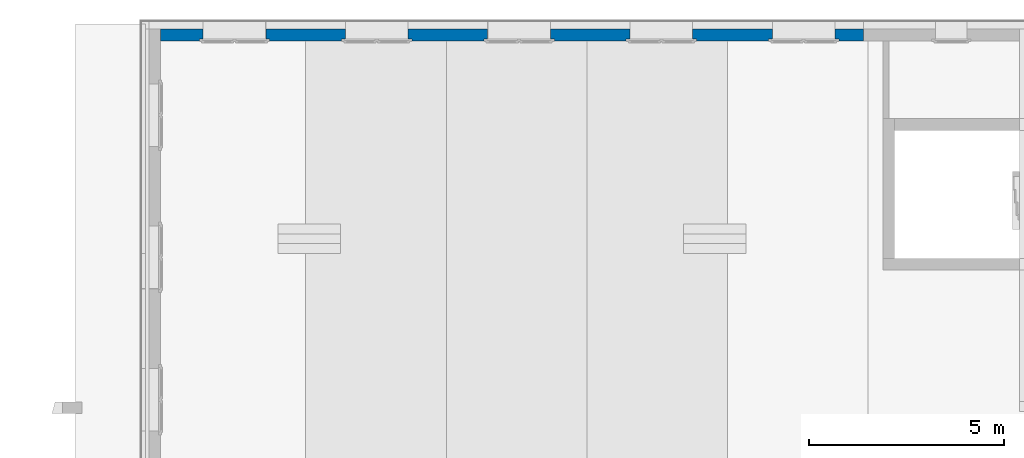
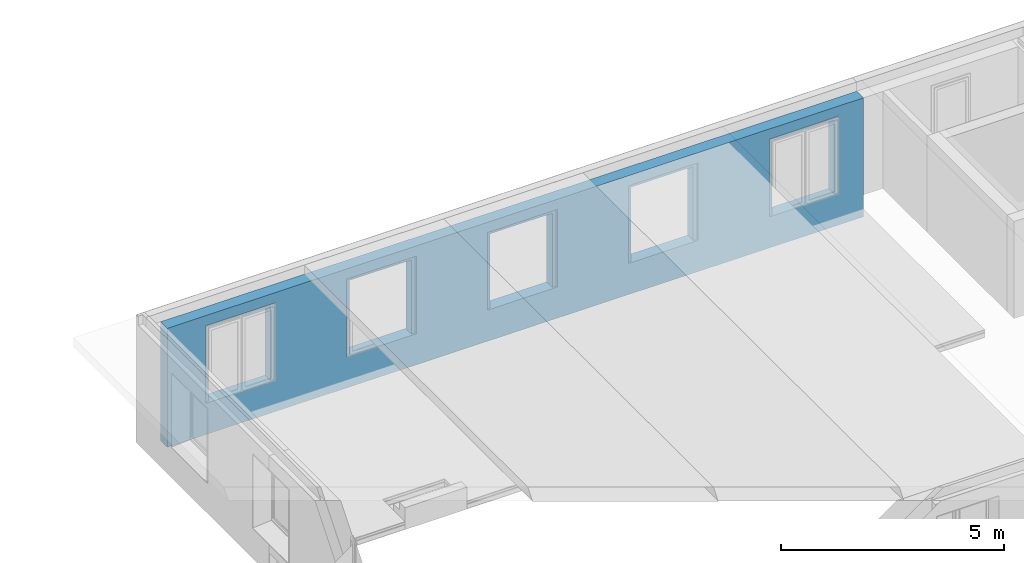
# One storey, part 6 of 20: 1 wall, 5 openings.
"""IFC4 building model written with IfcOpenShell, lengths in millimetres."""

from ifc_helpers import new_model, entity, si_unit, converted_unit, derived_unit, direction, frame, origin_with_axes, place, context, subcontext, project, spatial, polygons, material, constituent, constituent_set, type_object, element, save


model = new_model("IFC4")

# Units and contexts
model_context = context("Model", 3, precision=0.01, world=origin_with_axes(), true_north=direction((0.0, 1.0)))
body_context = subcontext(model_context, "Body", "Model", "MODEL_VIEW")
ifc_project = project(units=[si_unit("LENGTHUNIT", "METRE", prefix="MILLI"), si_unit("AREAUNIT", "SQUARE_METRE"), si_unit("VOLUMEUNIT", "CUBIC_METRE"), converted_unit("PLANEANGLEUNIT", "DEGREE", entity("IfcPlaneAngleMeasure", 0.0174532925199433), si_unit("PLANEANGLEUNIT", "RADIAN"), dimensions=[0, 0, 0, 0, 0, 0, 0]), converted_unit("TIMEUNIT", "Year", entity("IfcTimeMeasure", 31557600.0), si_unit("TIMEUNIT", "SECOND"), dimensions=[0, 0, 1, 0, 0, 0, 0]), si_unit("MASSUNIT", "GRAM", prefix="KILO"), si_unit("THERMODYNAMICTEMPERATUREUNIT", "DEGREE_CELSIUS"), si_unit("LUMINOUSINTENSITYUNIT", "LUMEN"), si_unit("ENERGYUNIT", "JOULE", prefix="MEGA"), derived_unit("THERMALCONDUCTANCEUNIT", [(si_unit("POWERUNIT", "WATT"), 1), (si_unit("LENGTHUNIT", "METRE"), -1), (si_unit("THERMODYNAMICTEMPERATUREUNIT", "KELVIN"), -1)]), derived_unit("SPECIFICHEATCAPACITYUNIT", [(si_unit("ENERGYUNIT", "JOULE"), 1), (si_unit("MASSUNIT", "GRAM", prefix="KILO"), -1), (si_unit("THERMODYNAMICTEMPERATUREUNIT", "KELVIN"), -1)]), derived_unit("MASSDENSITYUNIT", [(si_unit("MASSUNIT", "GRAM", prefix="KILO"), 1), (si_unit("VOLUMEUNIT", "CUBIC_METRE"), -1)])], contexts=[model_context])

# Site, building, storey
site_placement = place(None, origin_with_axes())
site = spatial("IfcSite", under=ifc_project, at=site_placement, Name="Gelände", CompositionType="ELEMENT")
building_placement = place(site_placement, origin_with_axes())
building = spatial("IfcBuilding", under=site, at=building_placement, Name="Gebäude", CompositionType="ELEMENT")
storey_placement = place(building_placement, frame((0.0, 0.0, 5.198845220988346e-05), z_axis=(0.0, 0.0, 1.0), x_axis=(1.0, 0.0, 0.0)))
storey = spatial("IfcBuildingStorey", under=building, at=storey_placement, Name="EG", CompositionType="ELEMENT", Elevation=0.0)

# Wall, openings
ifc_material = material(Name="Beton bewehrt")
ifc_constituent = constituent(ifc_material, Name="Beton bewehrt")
ifc_constituent_set = constituent_set(constituents=[ifc_constituent], Name="Aussenwand Typ 05")
wall_type = type_object("IfcWallType", Name="Aussenwand Typ 05 300", PredefinedType="NOTDEFINED")
wall_placement = place(storey_placement, frame((-6861.004181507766, 37737.5972813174, -600.0000000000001), z_axis=(0.0, 0.0, 1.0), x_axis=(1.0, 0.0, 0.0)))
wall = element("IfcWall", 1, at=wall_placement, inside=storey, type_object=wall_type, material=ifc_constituent_set, Name="Wand-014", PredefinedType="NOTDEFINED", context=body_context, shape_type="Tessellation", body=[
    polygons([(17561.99999999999, -250.0, 849.999948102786), (17561.99999999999, -250.0, 2871.999948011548), (17561.99999999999, 0.0, 2871.999948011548), (17561.99999999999, 0.0, 849.999948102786), (15957.99999999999, -250.0, 2871.999948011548), (17662.0, -250.0, 849.999948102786), (17662.0, -250.0, 2971.999948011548), (15857.99999999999, -250.0, 2971.999948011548), (15857.99999999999, -250.0, 849.999948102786), (15957.99999999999, -250.0, 849.999948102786), (15957.99999999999, 0.0, 2871.999948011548), (18290.00280796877, 0.0, 0.0), (299.9999999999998, 0.0, 0.0), (299.9999999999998, 0.0, 3249.999948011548), (18290.00280796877, 0.0, 3249.999948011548), (2993.999999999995, 0.0, 849.999948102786), (2993.999999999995, 0.0, 2871.999948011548), (1389.999999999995, 0.0, 2871.999948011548), (1389.999999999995, 0.0, 849.999948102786), (5031.999999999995, 0.0, 2871.999948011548), (5031.999999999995, 0.0, 849.999948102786), (6635.999999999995, 0.0, 849.999948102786), (6635.999999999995, 0.0, 2871.999948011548), (10277.99999999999, 0.0, 849.999948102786), (10277.99999999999, 0.0, 2871.999948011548), (8673.999999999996, 0.0, 2871.999948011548), (8673.999999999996, 0.0, 849.999948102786), (12315.99999999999, 0.0, 2871.999948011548), (12315.99999999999, 0.0, 849.999948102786), (13920.0, 0.0, 849.999948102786), (13920.0, 0.0, 2871.999948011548), (15957.99999999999, 0.0, 849.999948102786), (15857.99999999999, -299.9999999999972, 849.999948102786), (17662.0, -299.9999999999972, 849.999948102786), (17662.0, -299.9999999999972, 2971.999948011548), (15857.99999999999, -299.9999999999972, 2971.999948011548), (18290.00280796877, -299.9999999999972, 0.0), (299.9999999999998, -299.9999999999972, 0.0), (299.9999999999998, -299.9999999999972, 3249.999948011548), (18290.00280796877, -299.9999999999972, 3249.999948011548), (2993.999999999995, -250.0, 849.999948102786), (2993.999999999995, -250.0, 2871.999948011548), (1389.999999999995, -250.0, 2871.999948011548), (1389.999999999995, -250.0, 849.999948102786), (1289.999999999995, -250.0, 849.999948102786), (1289.999999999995, -299.9999999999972, 849.999948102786), (3093.999999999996, -299.9999999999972, 849.999948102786), (3093.999999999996, -250.0, 849.999948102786), (5031.999999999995, -250.0, 2871.999948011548), (5031.999999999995, -250.0, 849.999948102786), (4931.999999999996, -250.0, 849.999948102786), (4931.999999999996, -299.9999999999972, 849.999948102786), (6735.999999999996, -299.9999999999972, 849.999948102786), (6735.999999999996, -250.0, 849.999948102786), (6635.999999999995, -250.0, 849.999948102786), (6635.999999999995, -250.0, 2871.999948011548), (10277.99999999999, -250.0, 849.999948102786), (10277.99999999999, -250.0, 2871.999948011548), (8673.999999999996, -250.0, 2871.999948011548), (8673.999999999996, -250.0, 849.999948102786), (10378.0, -250.0, 849.999948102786), (8573.999999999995, -250.0, 849.999948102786), (8573.999999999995, -299.9999999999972, 849.999948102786), (10378.0, -299.9999999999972, 849.999948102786), (12315.99999999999, -250.0, 2871.999948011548), (12315.99999999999, -250.0, 849.999948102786), (12216.0, -299.9999999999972, 849.999948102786), (14020.0, -299.9999999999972, 849.999948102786), (14020.0, -250.0, 849.999948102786), (13920.0, -250.0, 849.999948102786), (12216.0, -250.0, 849.999948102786), (13920.0, -250.0, 2871.999948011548), (1289.999999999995, -299.9999999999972, 2971.999948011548), (3093.999999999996, -299.9999999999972, 2971.999948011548), (6735.999999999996, -299.9999999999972, 2971.999948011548), (4931.999999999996, -299.9999999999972, 2971.999948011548), (8573.999999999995, -299.9999999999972, 2971.999948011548), (10378.0, -299.9999999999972, 2971.999948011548), (14020.0, -299.9999999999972, 2971.999948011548), (12216.0, -299.9999999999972, 2971.999948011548), (3093.999999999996, -250.0, 2971.999948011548), (1289.999999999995, -250.0, 2971.999948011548), (6735.999999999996, -250.0, 2971.999948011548), (4931.999999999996, -250.0, 2971.999948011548), (10378.0, -250.0, 2971.999948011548), (8573.999999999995, -250.0, 2971.999948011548), (14020.0, -250.0, 2971.999948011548), (12216.0, -250.0, 2971.999948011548)], [[[1, 2, 3, 4]], [[5, 2, 1, 6, 7, 8, 9, 10]], [[2, 5, 11, 3]], [[12, 13, 14, 15], [16, 17, 18, 19], [20, 21, 22, 23], [24, 25, 26, 27], [28, 29, 30, 31], [4, 3, 11, 32]], [[10, 9, 33, 34, 6, 1, 4, 32]], [[34, 35, 7, 6]], [[35, 36, 8, 7]], [[36, 33, 9, 8]], [[5, 10, 32, 11]], [[37, 38, 13, 12]], [[14, 13, 38, 39]], [[15, 14, 39, 40]], [[37, 12, 15, 40]], [[41, 42, 17, 16]], [[42, 43, 18, 17]], [[43, 44, 19, 18]], [[44, 45, 46, 47, 48, 41, 16, 19]], [[21, 20, 49, 50]], [[22, 21, 50, 51, 52, 53, 54, 55]], [[23, 22, 55, 56]], [[20, 23, 56, 49]], [[57, 58, 25, 24]], [[58, 59, 26, 25]], [[59, 60, 27, 26]], [[61, 57, 24, 27, 60, 62, 63, 64]], [[29, 28, 65, 66]], [[67, 68, 69, 70, 30, 29, 66, 71]], [[31, 30, 70, 72]], [[28, 31, 72, 65]], [[40, 39, 38, 37], [46, 73, 74, 47], [75, 53, 52, 76], [63, 77, 78, 64], [79, 68, 67, 80], [33, 36, 35, 34]], [[43, 42, 41, 48, 81, 82, 45, 44]], [[73, 46, 45, 82]], [[47, 74, 81, 48]], [[51, 50, 49, 56, 55, 54, 83, 84]], [[51, 84, 76, 52]], [[83, 54, 53, 75]], [[85, 86, 62, 60, 59, 58, 57, 61]], [[77, 63, 62, 86]], [[64, 78, 85, 61]], [[70, 69, 87, 88, 71, 66, 65, 72]], [[87, 69, 68, 79]], [[71, 88, 80, 67]], [[74, 73, 82, 81]], [[84, 83, 75, 76]], [[78, 77, 86, 85]], [[88, 87, 79, 80]]], closed=True),
])
opening_1_placement = place(wall_placement, frame((2191.999999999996, 0.0, 909.9999481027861), z_axis=(0.0, 0.0, 1.0), x_axis=(1.0, 0.0, 0.0)))
element("IfcOpeningElement", 2, at=opening_1_placement, cuts=wall, Name="Fenster-004", context=body_context, identifier="Reference", shape_type="Tessellation", body=[
    polygons([(800.0000000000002, 0.9999999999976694, 1959.999999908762), (800.0000000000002, 0.9999999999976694, 1961.999999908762), (802.0, 0.9999999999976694, 1961.999999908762), (802.0, 0.9999999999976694, -60.00000000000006), (-802.0000000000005, 0.9999999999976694, -60.00000000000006), (-802.0000000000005, 0.9999999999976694, 1961.999999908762), (-799.9999999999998, 0.9999999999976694, 1961.999999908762), (-799.9999999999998, 0.9999999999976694, 1959.999999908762), (800.0000000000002, 0.0, 1961.999999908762), (800.0000000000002, 149.9999999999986, 1959.999999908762), (800.0000000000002, 149.9999999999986, 2249.999999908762), (800.0000000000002, 0.0, 2249.999999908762), (-799.9999999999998, 0.0, 1961.999999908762), (-802.0000000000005, -250.0, 1961.999999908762), (802.0, -250.0, 1961.999999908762), (802.0, -250.0, -60.00000000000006), (-802.0000000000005, -250.0, -60.00000000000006), (902.0000000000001, -250.0, -60.00000000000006), (902.0000000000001, -300.9999999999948, -60.00000000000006), (-902.0000000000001, -300.9999999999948, -60.00000000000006), (-902.0000000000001, -250.0, -60.00000000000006), (-799.9999999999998, 0.0, 2249.999999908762), (-799.9999999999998, 149.9999999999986, 2249.999999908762), (-799.9999999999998, 149.9999999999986, 1959.999999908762), (-902.0000000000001, -250.0, 2061.999999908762), (902.0000000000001, -250.0, 2061.999999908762), (902.0000000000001, -300.9999999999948, 2061.999999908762), (-902.0000000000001, -300.9999999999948, 2061.999999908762)], [[[1, 2, 3, 4, 5, 6, 7, 8]], [[9, 2, 1, 10, 11, 12]], [[13, 7, 6, 14, 15, 3, 2, 9]], [[15, 16, 4, 3]], [[17, 5, 4, 16, 18, 19, 20, 21]], [[17, 14, 6, 5]], [[8, 7, 13, 22, 23, 24]], [[1, 8, 24, 10]], [[24, 23, 11, 10]], [[23, 22, 12, 11]], [[13, 9, 12, 22]], [[16, 15, 14, 17, 21, 25, 26, 18]], [[18, 26, 27, 19]], [[28, 20, 19, 27]], [[25, 21, 20, 28]], [[26, 25, 28, 27]]], closed=True),
])
opening_2_placement = place(wall_placement, frame((5833.999999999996, 0.0, 909.9999481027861), z_axis=(0.0, 0.0, 1.0), x_axis=(1.0, 0.0, 0.0)))
element("IfcOpeningElement", 3, at=opening_2_placement, cuts=wall, Name="Fenster-004", context=body_context, identifier="Reference", shape_type="Tessellation", body=[
    polygons([(800.0000000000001, 0.9999999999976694, 1959.999999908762), (800.0000000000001, 0.9999999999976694, 1961.999999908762), (802.0000000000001, 0.9999999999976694, 1961.999999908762), (802.0000000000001, 0.9999999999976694, -60.00000000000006), (-802.0, 0.9999999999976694, -60.00000000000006), (-802.0, 0.9999999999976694, 1961.999999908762), (-800.0000000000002, 0.9999999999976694, 1961.999999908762), (-800.0000000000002, 0.9999999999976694, 1959.999999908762), (800.0000000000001, 0.0, 1961.999999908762), (800.0000000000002, 149.9999999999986, 1959.999999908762), (800.0000000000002, 149.9999999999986, 2249.999999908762), (800.0000000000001, 0.0, 2249.999999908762), (-800.0000000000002, 0.0, 1961.999999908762), (-802.0, -250.0, 1961.999999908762), (802.0000000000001, -250.0, 1961.999999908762), (802.0000000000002, -250.0, -60.00000000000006), (-802.0, -250.0, -60.00000000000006), (902.0000000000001, -250.0, -60.00000000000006), (902.0000000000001, -300.9999999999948, -60.00000000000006), (-902.0000000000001, -300.9999999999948, -60.00000000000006), (-902.0000000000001, -250.0, -60.00000000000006), (-800.0000000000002, 0.0, 2249.999999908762), (-800.0, 149.9999999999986, 2249.999999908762), (-800.0, 149.9999999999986, 1959.999999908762), (-902.0000000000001, -250.0, 2061.999999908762), (902.0000000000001, -250.0, 2061.999999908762), (902.0000000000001, -300.9999999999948, 2061.999999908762), (-902.0000000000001, -300.9999999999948, 2061.999999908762)], [[[1, 2, 3, 4, 5, 6, 7, 8]], [[9, 2, 1, 10, 11, 12]], [[13, 7, 6, 14, 15, 3, 2, 9]], [[15, 16, 4, 3]], [[17, 5, 4, 16, 18, 19, 20, 21]], [[17, 14, 6, 5]], [[8, 7, 13, 22, 23, 24]], [[1, 8, 24, 10]], [[24, 23, 11, 10]], [[23, 22, 12, 11]], [[13, 9, 12, 22]], [[16, 15, 14, 17, 21, 25, 26, 18]], [[18, 26, 27, 19]], [[28, 20, 19, 27]], [[25, 21, 20, 28]], [[26, 25, 28, 27]]], closed=True),
])
opening_3_placement = place(wall_placement, frame((9475.999999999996, 0.0, 909.9999481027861), z_axis=(0.0, 0.0, 1.0), x_axis=(1.0, 0.0, 0.0)))
element("IfcOpeningElement", 4, at=opening_3_placement, cuts=wall, Name="Fenster-004", context=body_context, identifier="Reference", shape_type="Tessellation", body=[
    polygons([(800.0000000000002, 0.9999999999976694, 1959.999999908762), (800.0000000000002, 0.9999999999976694, 1961.999999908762), (802.0, 0.9999999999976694, 1961.999999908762), (802.0, 0.9999999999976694, -60.00000000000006), (-802.0, 0.9999999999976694, -60.00000000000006), (-802.0, 0.9999999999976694, 1961.999999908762), (-800.0, 0.9999999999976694, 1961.999999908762), (-800.0, 0.9999999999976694, 1959.999999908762), (800.0000000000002, 0.0, 1961.999999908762), (800.0000000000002, 149.9999999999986, 1959.999999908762), (800.0000000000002, 149.9999999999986, 2249.999999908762), (800.0000000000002, 0.0, 2249.999999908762), (-800.0, 0.0, 1961.999999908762), (-802.0, -250.0, 1961.999999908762), (802.0, -250.0, 1961.999999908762), (802.0000000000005, -250.0, -60.00000000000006), (-802.0, -250.0, -60.00000000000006), (902.0000000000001, -250.0, -60.00000000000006), (902.0000000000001, -300.9999999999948, -60.00000000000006), (-902.0000000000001, -300.9999999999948, -60.00000000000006), (-902.0000000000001, -250.0, -60.00000000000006), (-800.0, 0.0, 2249.999999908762), (-800.0, 149.9999999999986, 2249.999999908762), (-800.0, 149.9999999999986, 1959.999999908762), (-902.0000000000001, -250.0, 2061.999999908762), (902.0000000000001, -250.0, 2061.999999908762), (902.0000000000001, -300.9999999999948, 2061.999999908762), (-902.0000000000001, -300.9999999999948, 2061.999999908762)], [[[1, 2, 3, 4, 5, 6, 7, 8]], [[9, 2, 1, 10, 11, 12]], [[13, 7, 6, 14, 15, 3, 2, 9]], [[15, 16, 4, 3]], [[17, 5, 4, 16, 18, 19, 20, 21]], [[17, 14, 6, 5]], [[8, 7, 13, 22, 23, 24]], [[1, 8, 24, 10]], [[24, 23, 11, 10]], [[23, 22, 12, 11]], [[13, 9, 12, 22]], [[16, 15, 14, 17, 21, 25, 26, 18]], [[18, 26, 27, 19]], [[28, 20, 19, 27]], [[25, 21, 20, 28]], [[26, 25, 28, 27]]], closed=True),
])
opening_4_placement = place(wall_placement, frame((13118.0, 0.0, 909.9999481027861), z_axis=(0.0, 0.0, 1.0), x_axis=(1.0, 0.0, 0.0)))
element("IfcOpeningElement", 5, at=opening_4_placement, cuts=wall, Name="Fenster-004", context=body_context, identifier="Reference", shape_type="Tessellation", body=[
    polygons([(799.9999999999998, 0.9999999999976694, 1959.999999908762), (799.9999999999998, 0.9999999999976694, 1961.999999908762), (802.0000000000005, 0.9999999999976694, 1961.999999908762), (802.0000000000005, 0.9999999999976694, -60.00000000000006), (-802.0000000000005, 0.9999999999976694, -60.00000000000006), (-802.0000000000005, 0.9999999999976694, 1961.999999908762), (-800.0000000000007, 0.9999999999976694, 1961.999999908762), (-800.0000000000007, 0.9999999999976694, 1959.999999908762), (799.9999999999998, 0.0, 1961.999999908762), (799.9999999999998, 149.9999999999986, 1959.999999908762), (799.9999999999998, 149.9999999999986, 2249.999999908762), (799.9999999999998, 0.0, 2249.999999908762), (-800.0000000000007, 0.0, 1961.999999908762), (-802.0000000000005, -250.0, 1961.999999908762), (802.0000000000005, -250.0, 1961.999999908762), (802.0000000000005, -250.0, -60.00000000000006), (-802.0000000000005, -250.0, -60.00000000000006), (902.0000000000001, -250.0, -60.00000000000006), (902.0000000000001, -300.9999999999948, -60.00000000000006), (-902.0000000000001, -300.9999999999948, -60.00000000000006), (-902.0000000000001, -250.0, -60.00000000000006), (-800.0000000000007, 0.0, 2249.999999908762), (-800.0000000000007, 149.9999999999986, 2249.999999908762), (-800.0000000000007, 149.9999999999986, 1959.999999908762), (-902.0000000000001, -250.0, 2061.999999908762), (902.0000000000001, -250.0, 2061.999999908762), (902.0000000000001, -300.9999999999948, 2061.999999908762), (-902.0000000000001, -300.9999999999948, 2061.999999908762)], [[[1, 2, 3, 4, 5, 6, 7, 8]], [[9, 2, 1, 10, 11, 12]], [[13, 7, 6, 14, 15, 3, 2, 9]], [[15, 16, 4, 3]], [[17, 5, 4, 16, 18, 19, 20, 21]], [[17, 14, 6, 5]], [[8, 7, 13, 22, 23, 24]], [[1, 8, 24, 10]], [[24, 23, 11, 10]], [[23, 22, 12, 11]], [[13, 9, 12, 22]], [[16, 15, 14, 17, 21, 25, 26, 18]], [[18, 26, 27, 19]], [[28, 20, 19, 27]], [[25, 21, 20, 28]], [[26, 25, 28, 27]]], closed=True),
])
opening_5_placement = place(wall_placement, frame((16759.99999999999, 0.0, 909.9999481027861), z_axis=(0.0, 0.0, 1.0), x_axis=(1.0, 0.0, 0.0)))
element("IfcOpeningElement", 6, at=opening_5_placement, cuts=wall, Name="Fenster-004", context=body_context, identifier="Reference", shape_type="Tessellation", body=[
    polygons([(800.0000000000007, 0.9999999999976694, 1959.999999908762), (800.0000000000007, 0.9999999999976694, 1961.999999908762), (801.9999999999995, 0.9999999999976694, 1961.999999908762), (801.9999999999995, 0.9999999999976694, -60.00000000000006), (-801.9999999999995, 0.9999999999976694, -60.00000000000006), (-801.9999999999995, 0.9999999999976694, 1961.999999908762), (-799.999999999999, 0.9999999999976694, 1961.999999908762), (-799.999999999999, 0.9999999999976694, 1959.999999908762), (800.0000000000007, 0.0, 1961.999999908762), (800.0000000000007, 149.9999999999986, 1959.999999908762), (800.0000000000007, 149.9999999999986, 2249.999999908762), (800.0000000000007, 0.0, 2249.999999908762), (-799.999999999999, 0.0, 1961.999999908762), (-801.9999999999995, -250.0, 1961.999999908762), (801.9999999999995, -250.0, 1961.999999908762), (801.9999999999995, -250.0, -60.00000000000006), (-801.9999999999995, -250.0, -60.00000000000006), (902.000000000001, -250.0, -60.00000000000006), (902.000000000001, -300.9999999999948, -60.00000000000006), (-902.000000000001, -300.9999999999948, -60.00000000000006), (-902.000000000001, -250.0, -60.00000000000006), (-799.999999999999, 0.0, 2249.999999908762), (-799.999999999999, 149.9999999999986, 2249.999999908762), (-799.999999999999, 149.9999999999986, 1959.999999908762), (-902.000000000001, -250.0, 2061.999999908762), (902.000000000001, -250.0, 2061.999999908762), (902.000000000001, -300.9999999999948, 2061.999999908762), (-902.000000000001, -300.9999999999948, 2061.999999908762)], [[[1, 2, 3, 4, 5, 6, 7, 8]], [[9, 2, 1, 10, 11, 12]], [[13, 7, 6, 14, 15, 3, 2, 9]], [[15, 16, 4, 3]], [[17, 5, 4, 16, 18, 19, 20, 21]], [[17, 14, 6, 5]], [[8, 7, 13, 22, 23, 24]], [[1, 8, 24, 10]], [[24, 23, 11, 10]], [[23, 22, 12, 11]], [[13, 9, 12, 22]], [[16, 15, 14, 17, 21, 25, 26, 18]], [[18, 26, 27, 19]], [[28, 20, 19, 27]], [[25, 21, 20, 28]], [[26, 25, 28, 27]]], closed=True),
])

save(model, "model.ifc")
